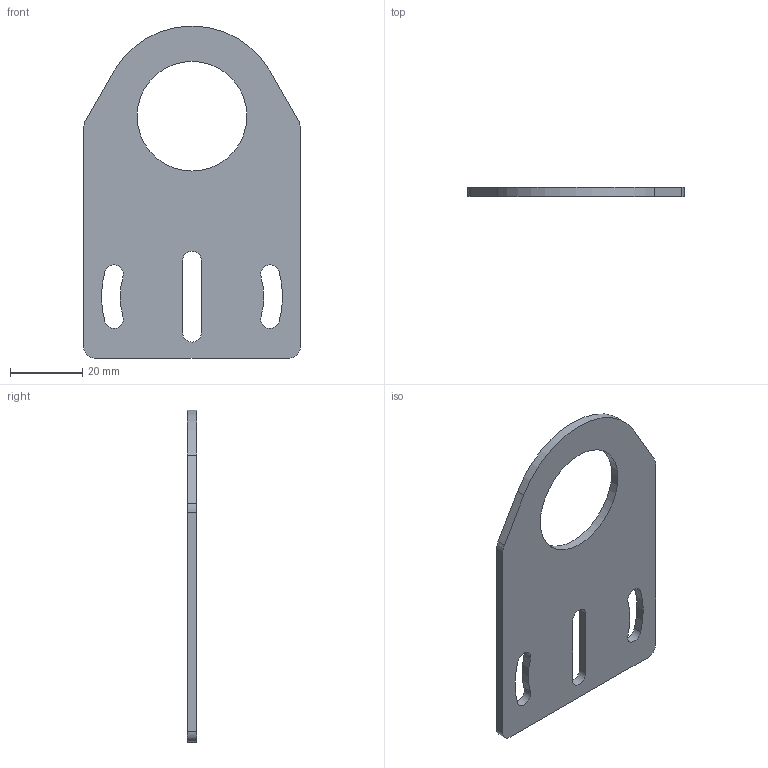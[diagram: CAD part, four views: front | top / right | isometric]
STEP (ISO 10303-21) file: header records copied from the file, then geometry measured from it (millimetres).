
FILE_DESCRIPTION( ( 'Unknown' ), '1' );
FILE_NAME( '//SRVMDFS14/Dati_CAD/Arch_Dis_Prodotti/Definitivi/Conversione_Fig/STP/ST30-A_fig.stp', 'Unknown', ( 'Unknown' ), ( 'Unknown' ), 'PSStep 17.0.49', 'Unknown', ' ' );
FILE_SCHEMA( ( 'AUTOMOTIVE_DESIGN { 1 0 10303 214 1 1 1 1 }' ) );
Length unit declared in the file: millimetre
Products named in the file (1): 1
Bounding box: 60 x 2.5 x 92 mm (x, y, z)
Volume: 10011.8 mm3; surface area: 9279.2 mm2
Topology: 1 solids, 1 shells, 25 faces, 69 edges, 46 vertices
Faces by surface type: cylinder 16, plane 9
Full cylindrical faces by diameter (mm): 30.4 x1
Entity records: 1042 total; most frequent: DIRECTION 152, CARTESIAN_POINT 140, ORIENTED_EDGE 136, EDGE_CURVE 68, AXIS2_PLACEMENT_3D 58, VERTEX_POINT 46, LINE 36, VECTOR 36
